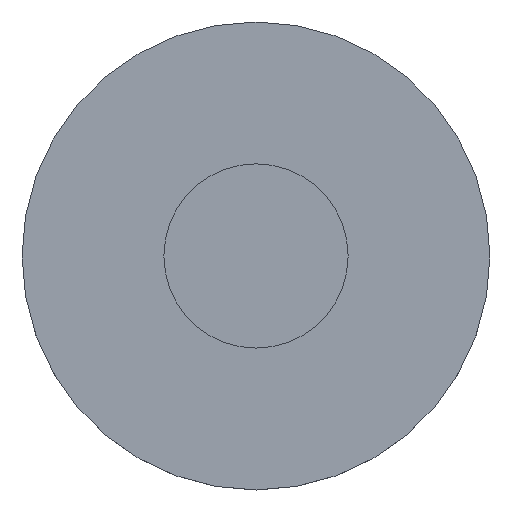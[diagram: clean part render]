
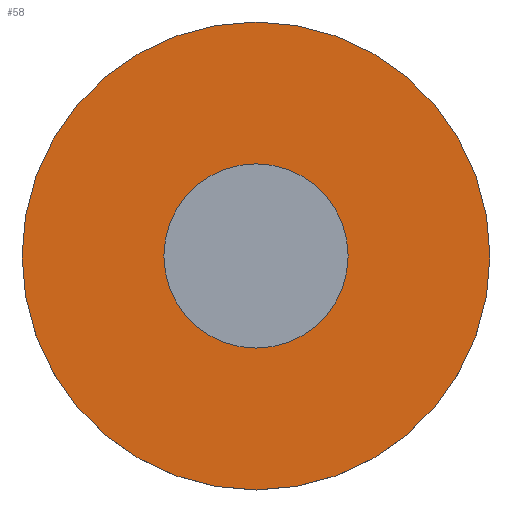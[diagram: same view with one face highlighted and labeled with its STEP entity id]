
A CAD part, top view. The second image highlights one B-rep face of the part: STEP entity #58.
In plain terms, the highlighted planar face has unit normal (0, 0, 1).
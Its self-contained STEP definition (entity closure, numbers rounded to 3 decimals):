
#58=ADVANCED_FACE('',(#72),#73,.T.);
#72=FACE_OUTER_BOUND('',#90,.T.);
#73=PLANE('',#91);
#90=EDGE_LOOP('',(#126,#127));
#91=AXIS2_PLACEMENT_3D('',#128,#129,#130);
#126=ORIENTED_EDGE('',*,*,#158,.T.);
#127=ORIENTED_EDGE('',*,*,#162,.T.);
#128=CARTESIAN_POINT('',(0.0,0.0,5.0));
#129=DIRECTION('',(0.0,0.0,1.0));
#130=DIRECTION('',(1.0,0.0,0.0));
#158=EDGE_CURVE('',#170,#174,#176,.T.);
#162=EDGE_CURVE('',#174,#170,#181,.T.);
#170=VERTEX_POINT('',#193);
#174=VERTEX_POINT('',#198);
#176=CIRCLE('',#201,25.4);
#181=CIRCLE('',#206,25.4);
#193=CARTESIAN_POINT('',(25.4,0.0,5.0));
#198=CARTESIAN_POINT('',(-25.4,0.,5.0));
#201=AXIS2_PLACEMENT_3D('',#224,#225,#226);
#206=AXIS2_PLACEMENT_3D('',#236,#237,#238);
#224=CARTESIAN_POINT('',(0.0,0.0,5.0));
#225=DIRECTION('',(0.0,0.0,1.0));
#226=DIRECTION('',(1.0,0.0,0.0));
#236=CARTESIAN_POINT('',(0.0,0.0,5.0));
#237=DIRECTION('',(0.0,0.0,1.0));
#238=DIRECTION('',(1.0,0.0,0.0));
